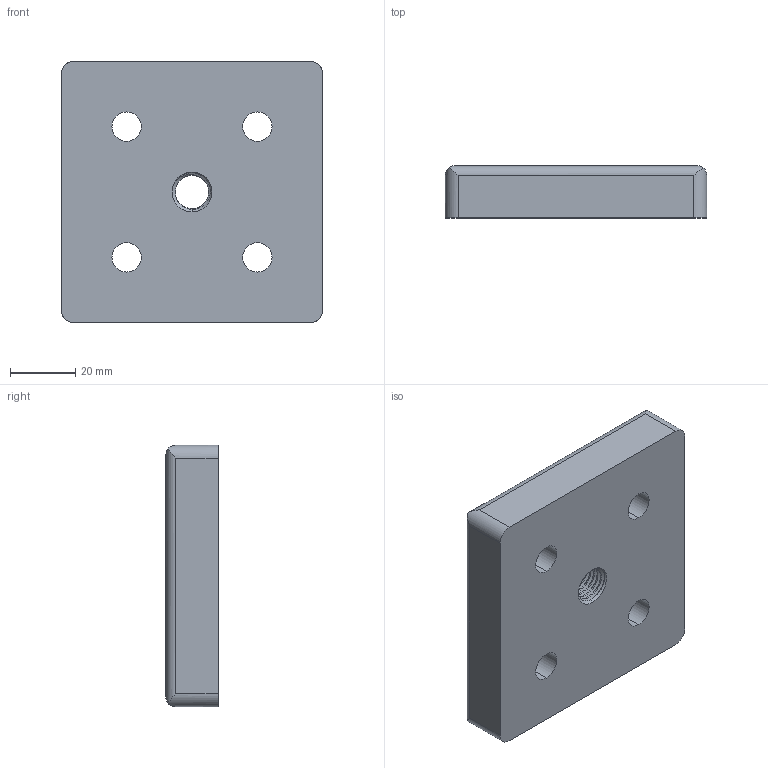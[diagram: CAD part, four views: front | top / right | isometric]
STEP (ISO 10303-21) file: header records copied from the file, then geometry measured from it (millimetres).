
FILE_DESCRIPTION (( 'STEP AP203' ), '1' );
FILE_NAME ('503241_Transport- u. Fußplatte 8 ZN 80x80 M12.step', '2022-08-02T06:32:45', ( '' ), ( '' ), 'SwSTEP 2.0', 'SolidWorks 2021', '' );
FILE_SCHEMA (( 'CONFIG_CONTROL_DESIGN' ));
Length unit declared in the file: millimetre
Products named in the file (1): 503241_Transport- u. Fußplatte 8 ZN 80x80 M12
Bounding box: 80 x 16 x 80 mm (x, y, z)
Volume: 91937.5 mm3; surface area: 20020.7 mm2
Topology: 1 solids, 1 shells, 62 faces, 167 edges, 111 vertices
Faces by surface type: cylinder 44, plane 10, cone 5, bspline 3
Entity records: 3950 total; most frequent: CARTESIAN_POINT 2433, ORIENTED_EDGE 334, DIRECTION 266, EDGE_CURVE 167, VERTEX_POINT 111, AXIS2_PLACEMENT_3D 103, EDGE_LOOP 76, FACE_OUTER_BOUND 62
